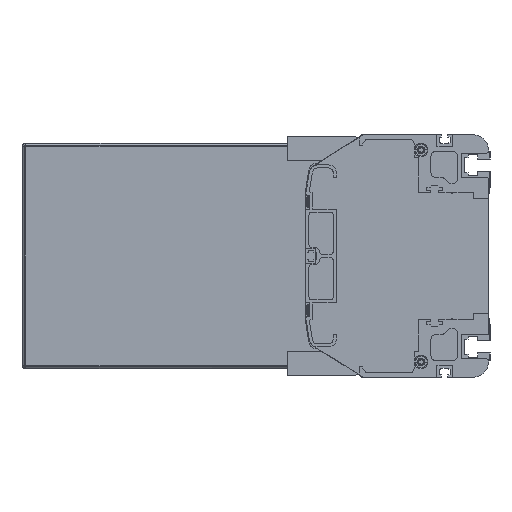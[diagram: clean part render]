
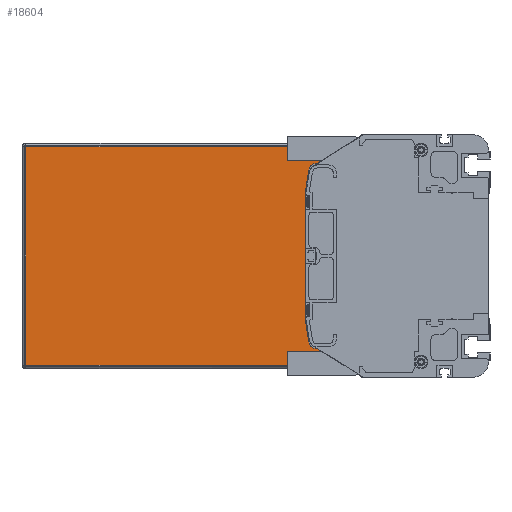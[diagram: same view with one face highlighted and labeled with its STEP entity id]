
A CAD part, left-side view. The second image highlights one B-rep face of the part: STEP entity #18604.
In plain terms, the highlighted planar face has unit normal (-1, 0, 0).
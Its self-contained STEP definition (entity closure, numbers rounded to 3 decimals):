
#697=DIRECTION('',(0.,1.,0.));
#698=VECTOR('',#697,220.5);
#699=CARTESIAN_POINT('',(1186.5,86.,72.));
#700=LINE('',#699,#698);
#748=DIRECTION('',(0.,-1.,0.));
#749=VECTOR('',#748,220.5);
#750=CARTESIAN_POINT('',(1186.5,306.5,-72.));
#751=LINE('',#750,#749);
#807=DIRECTION('',(0.,0.,-1.));
#808=VECTOR('',#807,144.);
#809=CARTESIAN_POINT('',(1186.5,306.5,72.));
#810=LINE('',#809,#808);
#842=CARTESIAN_POINT('',(1186.5,114.728,56.));
#843=DIRECTION('',(-1.,0.,0.));
#844=DIRECTION('',(0.,0.,1.));
#845=AXIS2_PLACEMENT_3D('',#842,#843,#844);
#847=DIRECTION('',(0.,0.156,-0.988));
#848=VECTOR('',#847,14.963);
#849=CARTESIAN_POINT('',(1186.5,119.666,56.78));
#850=LINE('',#849,#848);
#851=DIRECTION('',(0.,-0.156,-0.988));
#852=VECTOR('',#851,14.963);
#853=CARTESIAN_POINT('',(1186.5,122.,-42.));
#854=LINE('',#853,#852);
#855=CARTESIAN_POINT('',(1186.5,114.728,-56.));
#856=DIRECTION('',(-1.,0.,0.));
#857=DIRECTION('',(0.,0.988,-0.156));
#858=AXIS2_PLACEMENT_3D('',#855,#856,#857);
#865=DIRECTION('',(0.,0.,-1.));
#866=VECTOR('',#865,11.);
#867=CARTESIAN_POINT('',(1186.5,86.,-61.));
#868=LINE('',#867,#866);
#874=DIRECTION('',(0.,0.,-1.));
#875=VECTOR('',#874,11.);
#876=CARTESIAN_POINT('',(1186.5,86.,72.));
#877=LINE('',#876,#875);
#8986=DIRECTION('',(0.,1.,0.));
#8987=VECTOR('',#8986,28.728);
#8988=CARTESIAN_POINT('',(1186.5,86.,-61.));
#8989=LINE('',#8988,#8987);
#9006=DIRECTION('',(0.,0.,1.));
#9007=VECTOR('',#9006,84.);
#9008=CARTESIAN_POINT('',(1186.5,122.,-42.));
#9009=LINE('',#9008,#9007);
#9030=DIRECTION('',(0.,-1.,0.));
#9031=VECTOR('',#9030,28.728);
#9032=CARTESIAN_POINT('',(1186.5,114.728,61.));
#9033=LINE('',#9032,#9031);
#14032=CARTESIAN_POINT('',(1186.5,306.5,-72.));
#14033=CARTESIAN_POINT('',(1186.5,86.,-72.));
#14034=VERTEX_POINT('',#14032);
#14035=VERTEX_POINT('',#14033);
#14036=CARTESIAN_POINT('',(1186.5,86.,-61.));
#14037=VERTEX_POINT('',#14036);
#14038=CARTESIAN_POINT('',(1186.5,114.728,-61.));
#14039=VERTEX_POINT('',#14038);
#14040=CARTESIAN_POINT('',(1186.5,119.666,-56.78));
#14041=VERTEX_POINT('',#14040);
#14042=CARTESIAN_POINT('',(1186.5,122.,-42.));
#14043=VERTEX_POINT('',#14042);
#14044=CARTESIAN_POINT('',(1186.5,122.,42.));
#14045=VERTEX_POINT('',#14044);
#14046=CARTESIAN_POINT('',(1186.5,119.666,56.78));
#14047=VERTEX_POINT('',#14046);
#14048=CARTESIAN_POINT('',(1186.5,114.728,61.));
#14049=VERTEX_POINT('',#14048);
#14050=CARTESIAN_POINT('',(1186.5,86.,61.));
#14051=VERTEX_POINT('',#14050);
#14052=CARTESIAN_POINT('',(1186.5,86.,72.));
#14053=VERTEX_POINT('',#14052);
#14054=CARTESIAN_POINT('',(1186.5,306.5,72.));
#14055=VERTEX_POINT('',#14054);
#18576=CARTESIAN_POINT('',(1186.5,196.25,0.));
#18577=DIRECTION('',(1.,0.,0.));
#18578=DIRECTION('',(0.,0.,-1.));
#18579=AXIS2_PLACEMENT_3D('',#18576,#18577,#18578);
#18580=PLANE('',#18579);
#18581=ORIENTED_EDGE('',*,*,#18449,.F.);
#18582=ORIENTED_EDGE('',*,*,#18545,.F.);
#18583=ORIENTED_EDGE('',*,*,#18402,.F.);
#18585=ORIENTED_EDGE('',*,*,#18584,.T.);
#18587=ORIENTED_EDGE('',*,*,#18586,.F.);
#18589=ORIENTED_EDGE('',*,*,#18588,.T.);
#18591=ORIENTED_EDGE('',*,*,#18590,.T.);
#18593=ORIENTED_EDGE('',*,*,#18592,.F.);
#18595=ORIENTED_EDGE('',*,*,#18594,.T.);
#18597=ORIENTED_EDGE('',*,*,#18596,.T.);
#18599=ORIENTED_EDGE('',*,*,#18598,.F.);
#18601=ORIENTED_EDGE('',*,*,#18600,.T.);
#18602=EDGE_LOOP('',(#18581,#18582,#18583,#18585,#18587,#18589,#18591,#18593,
#18595,#18597,#18599,#18601));
#18603=FACE_OUTER_BOUND('',#18602,.F.);
#18604=ADVANCED_FACE('',(#18603),#18580,.F.);
#846=CIRCLE('',#845,5.);
#859=CIRCLE('',#858,5.);
#18402=EDGE_CURVE('',#14053,#14055,#700,.T.);
#18449=EDGE_CURVE('',#14034,#14035,#751,.T.);
#18545=EDGE_CURVE('',#14055,#14034,#810,.T.);
#18584=EDGE_CURVE('',#14053,#14051,#877,.T.);
#18586=EDGE_CURVE('',#14049,#14051,#9033,.T.);
#18588=EDGE_CURVE('',#14049,#14047,#846,.T.);
#18590=EDGE_CURVE('',#14047,#14045,#850,.T.);
#18592=EDGE_CURVE('',#14043,#14045,#9009,.T.);
#18594=EDGE_CURVE('',#14043,#14041,#854,.T.);
#18596=EDGE_CURVE('',#14041,#14039,#859,.T.);
#18598=EDGE_CURVE('',#14037,#14039,#8989,.T.);
#18600=EDGE_CURVE('',#14037,#14035,#868,.T.);
